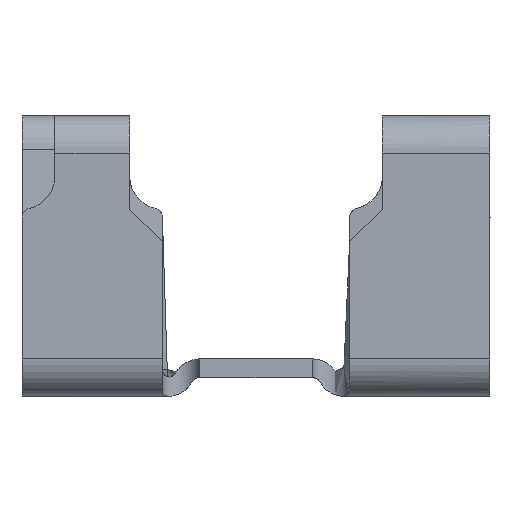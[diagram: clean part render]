
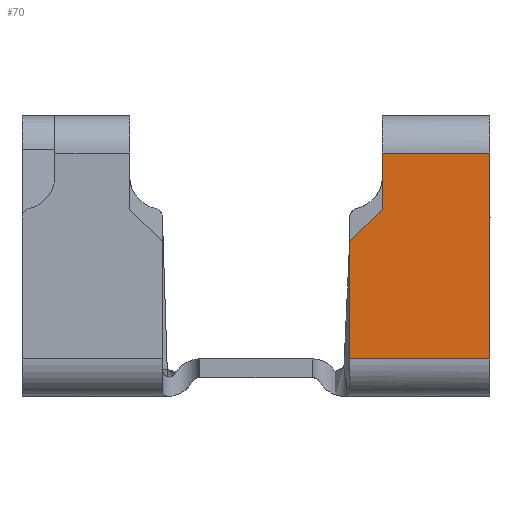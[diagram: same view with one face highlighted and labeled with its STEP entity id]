
A CAD part, front view. The second image highlights one B-rep face of the part: STEP entity #70.
In plain terms, the highlighted planar face has unit normal (0, -1, 0).
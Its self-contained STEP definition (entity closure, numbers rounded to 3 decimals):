
#7 = CARTESIAN_POINT ( 'NONE',  ( 1., -1., 1.65 ) ) ;
#13 = ORIENTED_EDGE ( 'NONE', *, *, #2185, .F. ) ;
#70 = ADVANCED_FACE ( 'NONE', ( #3186 ), #3787, .F. ) ;
#267 = EDGE_CURVE ( 'NONE', #3779, #3653, #1074, .T. ) ;
#476 = VECTOR ( 'NONE', #2431, 1000. ) ;
#488 = LINE ( 'NONE', #7, #476 ) ;
#600 = LINE ( 'NONE', #1716, #1302 ) ;
#664 = VECTOR ( 'NONE', #1490, 1000. ) ;
#765 = AXIS2_PLACEMENT_3D ( 'NONE', #3810, #3769, #3763 ) ;
#818 = VERTEX_POINT ( 'NONE', #3036 ) ;
#1041 = CARTESIAN_POINT ( 'NONE',  ( 1.35, -1., 2. ) ) ;
#1074 = LINE ( 'NONE', #2566, #3783 ) ;
#1081 = CARTESIAN_POINT ( 'NONE',  ( 1., -1., 1.65 ) ) ;
#1100 = VERTEX_POINT ( 'NONE', #2470 ) ;
#1302 = VECTOR ( 'NONE', #3880, 1000. ) ;
#1370 = LINE ( 'NONE', #1799, #3006 ) ;
#1405 = CARTESIAN_POINT ( 'NONE',  ( 1.35, -1., 2.6 ) ) ;
#1490 = DIRECTION ( 'NONE',  ( 0., 0., -1. ) ) ;
#1556 = LINE ( 'NONE', #3417, #3637 ) ;
#1716 = CARTESIAN_POINT ( 'NONE',  ( 0., -1., 2.6 ) ) ;
#1741 = CARTESIAN_POINT ( 'NONE',  ( 1., -1., 0.4 ) ) ;
#1799 = CARTESIAN_POINT ( 'NONE',  ( 1.707, -1., 0.4 ) ) ;
#1815 = ORIENTED_EDGE ( 'NONE', *, *, #2361, .F. ) ;
#2137 = EDGE_CURVE ( 'NONE', #1100, #818, #3459, .T. ) ;
#2145 = ORIENTED_EDGE ( 'NONE', *, *, #3786, .F. ) ;
#2185 = EDGE_CURVE ( 'NONE', #3653, #3173, #488, .T. ) ;
#2361 = EDGE_CURVE ( 'NONE', #3173, #3039, #1556, .T. ) ;
#2431 = DIRECTION ( 'NONE',  ( 0.707, 0., 0.707 ) ) ;
#2444 = EDGE_CURVE ( 'NONE', #3039, #1100, #600, .T. ) ;
#2470 = CARTESIAN_POINT ( 'NONE',  ( 2.5, -1., 2.6 ) ) ;
#2528 = DIRECTION ( 'NONE',  ( 0., 0., 1. ) ) ;
#2566 = CARTESIAN_POINT ( 'NONE',  ( 1., -1., 0. ) ) ;
#2577 = DIRECTION ( 'NONE',  ( 0., 0., 1. ) ) ;
#3006 = VECTOR ( 'NONE', #3106, 1000. ) ;
#3036 = CARTESIAN_POINT ( 'NONE',  ( 2.5, -1., 0.4 ) ) ;
#3039 = VERTEX_POINT ( 'NONE', #1405 ) ;
#3090 = ORIENTED_EDGE ( 'NONE', *, *, #2137, .F. ) ;
#3106 = DIRECTION ( 'NONE',  ( -1., 0., 0. ) ) ;
#3173 = VERTEX_POINT ( 'NONE', #1041 ) ;
#3186 = FACE_OUTER_BOUND ( 'NONE', #3553, .T. ) ;
#3295 = ORIENTED_EDGE ( 'NONE', *, *, #2444, .F. ) ;
#3315 = CARTESIAN_POINT ( 'NONE',  ( 2.5, -1., 0. ) ) ;
#3417 = CARTESIAN_POINT ( 'NONE',  ( 1.35, -1., 0. ) ) ;
#3459 = LINE ( 'NONE', #3315, #664 ) ;
#3553 = EDGE_LOOP ( 'NONE', ( #13, #3595, #2145, #3090, #3295, #1815 ) ) ;
#3595 = ORIENTED_EDGE ( 'NONE', *, *, #267, .F. ) ;
#3637 = VECTOR ( 'NONE', #2528, 1000. ) ;
#3653 = VERTEX_POINT ( 'NONE', #1081 ) ;
#3763 = DIRECTION ( 'NONE',  ( 0., 0., 1. ) ) ;
#3769 = DIRECTION ( 'NONE',  ( 0., 1., 0. ) ) ;
#3779 = VERTEX_POINT ( 'NONE', #1741 ) ;
#3783 = VECTOR ( 'NONE', #2577, 1000. ) ;
#3786 = EDGE_CURVE ( 'NONE', #818, #3779, #1370, .T. ) ;
#3787 = PLANE ( 'NONE',  #765 ) ;
#3810 = CARTESIAN_POINT ( 'NONE',  ( 0., -1., 0. ) ) ;
#3880 = DIRECTION ( 'NONE',  ( 1., 0., 0. ) ) ;
